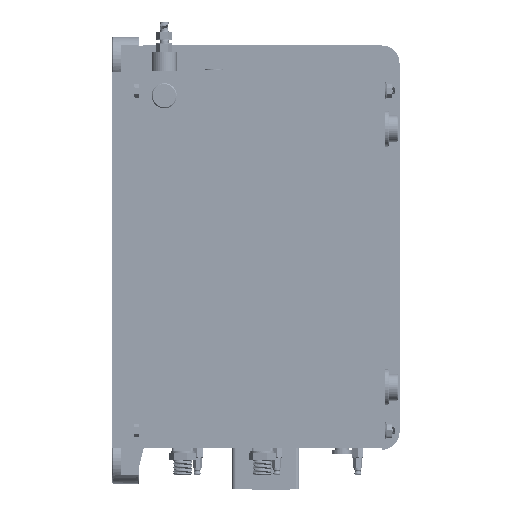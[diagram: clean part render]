
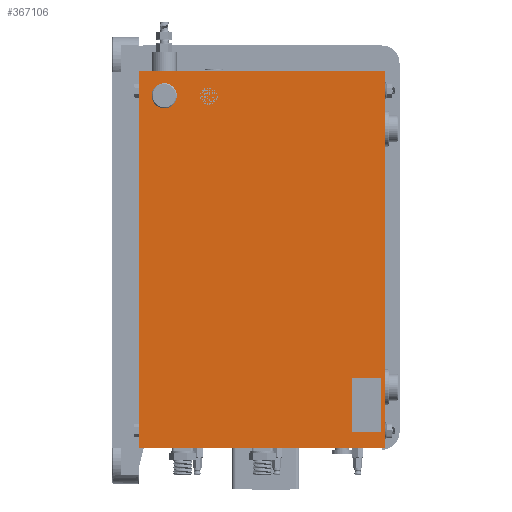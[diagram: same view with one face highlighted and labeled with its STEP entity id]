
A CAD part, left-side view. The second image highlights one B-rep face of the part: STEP entity #367106.
In plain terms, the highlighted planar face has unit normal (-1, 0, 0).
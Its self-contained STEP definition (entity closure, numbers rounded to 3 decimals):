
#896 = DIRECTION ( 'NONE',  ( 0., -1., 0. ) ) ;
#11875 = FACE_OUTER_BOUND ( 'NONE', #284854, .T. ) ;
#37474 = VECTOR ( 'NONE', #168891, 1000. ) ;
#38835 = DIRECTION ( 'NONE',  ( 0., 1., 0. ) ) ;
#48963 = DIRECTION ( 'NONE',  ( 0., 0., 1. ) ) ;
#55225 = LINE ( 'NONE', #343404, #263283 ) ;
#56328 = CARTESIAN_POINT ( 'NONE',  ( -492.998, -131.218, -68.867 ) ) ;
#94454 = DIRECTION ( 'NONE',  ( 1., 0., 0. ) ) ;
#113788 = ORIENTED_EDGE ( 'NONE', *, *, #583935, .T. ) ;
#117064 = ORIENTED_EDGE ( 'NONE', *, *, #187688, .T. ) ;
#145127 = PLANE ( 'NONE',  #317286 ) ;
#168891 = DIRECTION ( 'NONE',  ( 0., 0., 1. ) ) ;
#187347 = EDGE_CURVE ( 'NONE', #590015, #618422, #355770, .T. ) ;
#187688 = EDGE_CURVE ( 'NONE', #603439, #618422, #520030, .T. ) ;
#220459 = CARTESIAN_POINT ( 'NONE',  ( -492.998, 115.782, -148.867 ) ) ;
#234814 = EDGE_CURVE ( 'NONE', #253487, #603439, #55225, .T. ) ;
#240076 = VECTOR ( 'NONE', #38835, 1000. ) ;
#251014 = CARTESIAN_POINT ( 'NONE',  ( -492.998, -159.218, -148.867 ) ) ;
#253487 = VERTEX_POINT ( 'NONE', #455182 ) ;
#263283 = VECTOR ( 'NONE', #48963, 1000. ) ;
#284854 = EDGE_LOOP ( 'NONE', ( #603749, #113788, #530645, #117064 ) ) ;
#308328 = CARTESIAN_POINT ( 'NONE',  ( -492.998, 115.782, -111.867 ) ) ;
#317286 = AXIS2_PLACEMENT_3D ( 'NONE', #56328, #94454, #534396 ) ;
#343404 = CARTESIAN_POINT ( 'NONE',  ( -492.998, -159.218, -68.867 ) ) ;
#345982 = LINE ( 'NONE', #251014, #400515 ) ;
#346172 = CARTESIAN_POINT ( 'NONE',  ( -492.998, 115.782, 273.133 ) ) ;
#355770 = LINE ( 'NONE', #308328, #37474 ) ;
#367106 = ADVANCED_FACE ( 'NONE', ( #11875 ), #145127, .F. ) ;
#371362 = CARTESIAN_POINT ( 'NONE',  ( -492.998, 204.782, 273.133 ) ) ;
#400515 = VECTOR ( 'NONE', #896, 1000. ) ;
#455182 = CARTESIAN_POINT ( 'NONE',  ( -492.998, -159.218, -148.867 ) ) ;
#520030 = LINE ( 'NONE', #371362, #240076 ) ;
#530645 = ORIENTED_EDGE ( 'NONE', *, *, #234814, .T. ) ;
#534396 = DIRECTION ( 'NONE',  ( 0., -1., 0. ) ) ;
#583935 = EDGE_CURVE ( 'NONE', #590015, #253487, #345982, .T. ) ;
#587739 = CARTESIAN_POINT ( 'NONE',  ( -492.998, -159.218, 273.133 ) ) ;
#590015 = VERTEX_POINT ( 'NONE', #220459 ) ;
#603439 = VERTEX_POINT ( 'NONE', #587739 ) ;
#603749 = ORIENTED_EDGE ( 'NONE', *, *, #187347, .F. ) ;
#618422 = VERTEX_POINT ( 'NONE', #346172 ) ;
